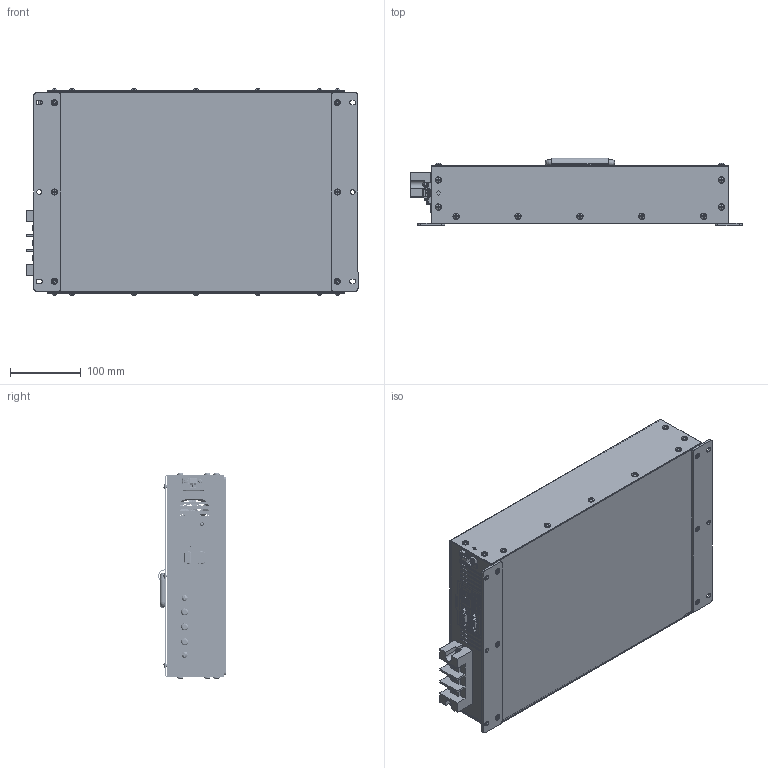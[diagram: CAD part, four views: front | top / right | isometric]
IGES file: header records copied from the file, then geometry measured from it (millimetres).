
Global section: file name: VW2COM_HANDLE2S_2025.07.21; native system: Autodesk Inventor 2021; preprocessor: unknown; author: eunsol jang; date: 20250721.142701; units: inch
Bounding box: 468 x 95.2 x 290.84 mm (x, y, z)
Volume: 685448 mm3; surface area: 839524.3 mm2
Topology: 14 solids, 14 shells, 3618 faces, 10972 edges, 7749 vertices
Faces by surface type: bspline 3618
